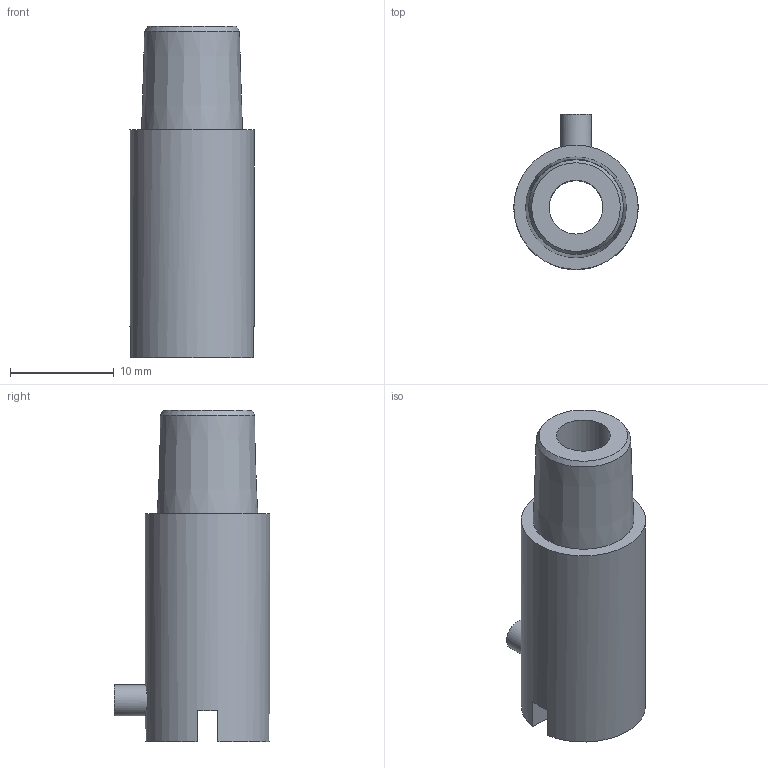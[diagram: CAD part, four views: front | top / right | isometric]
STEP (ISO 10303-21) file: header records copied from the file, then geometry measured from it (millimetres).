
FILE_DESCRIPTION (( 'STEP AP203' ), '1' );
FILE_NAME ('YIT220-2(2).STEP', '2025-07-31T08:21:49', ( '' ), ( '' ), 'SwSTEP 2.0', 'SolidWorks 2024', '' );
FILE_SCHEMA (( 'CONFIG_CONTROL_DESIGN' ));
Length unit declared in the file: millimetre
Products named in the file (1): YIT220-2(2)
Bounding box: 12 x 15 x 32 mm (x, y, z)
Volume: 2484.4 mm3; surface area: 1864 mm2
Topology: 1 solids, 1 shells, 16 faces, 39 edges, 26 vertices
Faces by surface type: plane 11, cylinder 3, cone 2
Full cylindrical faces by diameter (mm): 3 x1, 5.2 x1, 12 x1
Entity records: 555 total; most frequent: CARTESIAN_POINT 122, DIRECTION 78, ORIENTED_EDGE 62, EDGE_CURVE 31, AXIS2_PLACEMENT_3D 31, EDGE_LOOP 24, VERTEX_POINT 23, FACE_OUTER_BOUND 19
